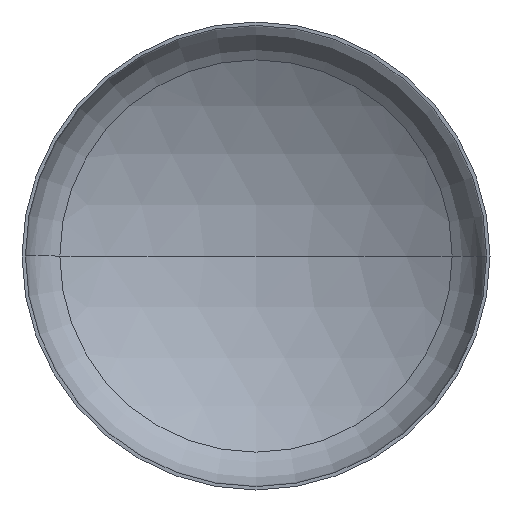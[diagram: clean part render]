
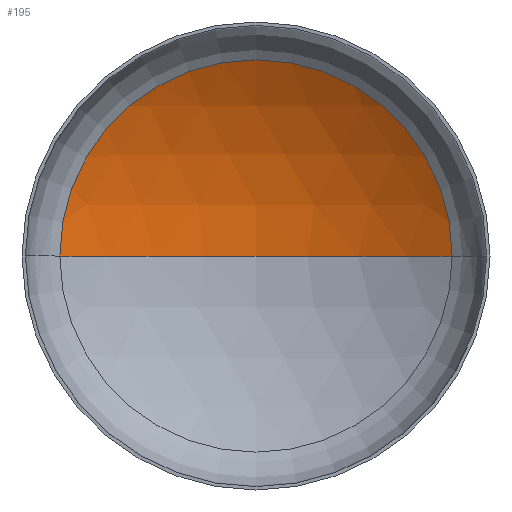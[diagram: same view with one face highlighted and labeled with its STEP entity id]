
A CAD part, front view. The second image highlights one B-rep face of the part: STEP entity #195.
In plain terms, the highlighted spherical face has radius 3600 mm.
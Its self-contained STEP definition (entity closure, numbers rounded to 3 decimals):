
#1 = AXIS2_PLACEMENT_3D ( 'NONE', #391, #79, #225 ) ;
#4 = AXIS2_PLACEMENT_3D ( 'NONE', #105, #393, #303 ) ;
#21 = AXIS2_PLACEMENT_3D ( 'NONE', #163, #165, #143 ) ;
#33 = AXIS2_PLACEMENT_3D ( 'NONE', #68, #96, #66 ) ;
#61 = CARTESIAN_POINT ( 'NONE',  ( -1886.127, 691.977, 0. ) ) ;
#66 = DIRECTION ( 'NONE',  ( 1., 0., 0. ) ) ;
#68 = CARTESIAN_POINT ( 'NONE',  ( 0., 691.977, 0. ) ) ;
#79 = DIRECTION ( 'NONE',  ( 0., 0., 1. ) ) ;
#85 = EDGE_CURVE ( 'NONE', #387, #364, #327, .T. ) ;
#96 = DIRECTION ( 'NONE',  ( 0., -1., 0. ) ) ;
#105 = CARTESIAN_POINT ( 'NONE',  ( 0., -2374.377, 0. ) ) ;
#117 = ORIENTED_EDGE ( 'NONE', *, *, #85, .T. ) ;
#143 = DIRECTION ( 'NONE',  ( -1., 0., 0. ) ) ;
#146 = ORIENTED_EDGE ( 'NONE', *, *, #338, .F. ) ;
#163 = CARTESIAN_POINT ( 'NONE',  ( 0., -2374.377, 0. ) ) ;
#165 = DIRECTION ( 'NONE',  ( 0., 0., -1. ) ) ;
#166 = ORIENTED_EDGE ( 'NONE', *, *, #333, .T. ) ;
#177 = CARTESIAN_POINT ( 'NONE',  ( 1886.127, 691.977, 0. ) ) ;
#183 = CARTESIAN_POINT ( 'NONE',  ( 0., 1225.623, 0. ) ) ;
#195 = ADVANCED_FACE ( 'NONE', ( #386 ), #245, .F. ) ;
#216 = CIRCLE ( 'NONE', #4, 3600. ) ;
#223 = VERTEX_POINT ( 'NONE', #183 ) ;
#225 = DIRECTION ( 'NONE',  ( 1., 0., 0. ) ) ;
#245 = SPHERICAL_SURFACE ( 'NONE', #21, 3600. ) ;
#283 = CIRCLE ( 'NONE', #1, 3600. ) ;
#298 = EDGE_LOOP ( 'NONE', ( #146, #166, #117 ) ) ;
#303 = DIRECTION ( 'NONE',  ( -1., 0., 0. ) ) ;
#327 = CIRCLE ( 'NONE', #33, 1886.127 ) ;
#333 = EDGE_CURVE ( 'NONE', #223, #387, #216, .T. ) ;
#338 = EDGE_CURVE ( 'NONE', #223, #364, #283, .T. ) ;
#364 = VERTEX_POINT ( 'NONE', #61 ) ;
#386 = FACE_OUTER_BOUND ( 'NONE', #298, .T. ) ;
#387 = VERTEX_POINT ( 'NONE', #177 ) ;
#391 = CARTESIAN_POINT ( 'NONE',  ( 0., -2374.377, 0. ) ) ;
#393 = DIRECTION ( 'NONE',  ( 0., 0., -1. ) ) ;
